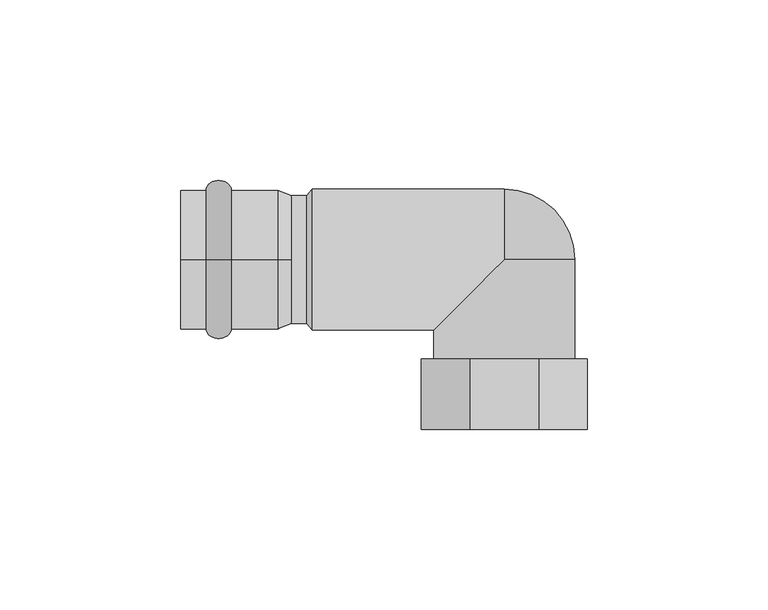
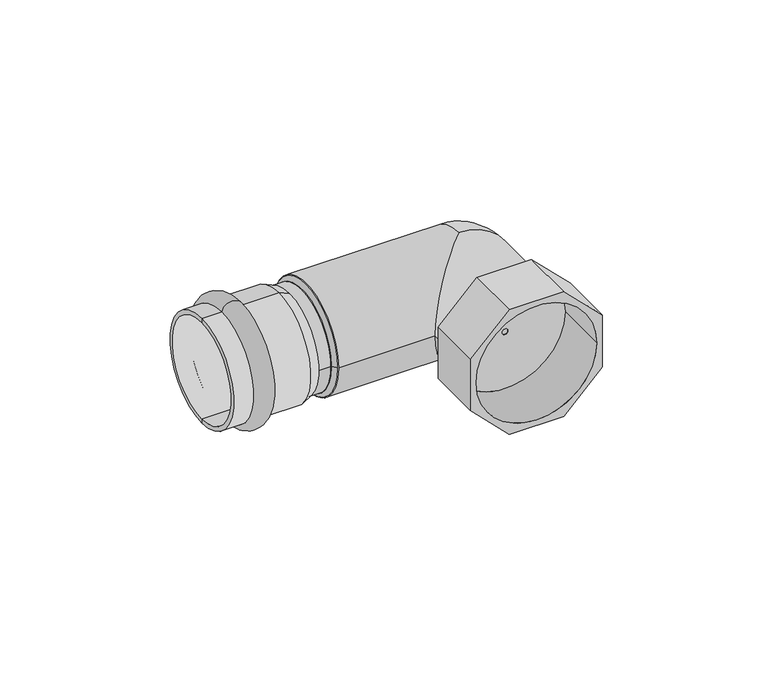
"""IFC4 building model written with IfcOpenShell, lengths in millimetres: pipe fitting geometry."""

from ifc_helpers import new_model, si_unit, point, frame, origin, origin_2d, place, context, project, spatial, polyline, circle_curve, ellipse_curve, trimmed, segment, composite_curve, outline, extrude, source, transform, mapped, element, save
from ifc_brep_helpers import plane_surface, cylinder_surface, revolved_surface, advanced_brep


def pipe_fitting_cd871b9a(model_context):
    return source(origin(), model_context, "Body", "SolidModel", [
        advanced_brep(
        [(-20.0, 0.0, 19.25), (-20.0, 0.0, -19.25), (-13.0, 0.0, -19.25), (-13.0, 0.0, 19.25)],
        [
            (0, 1, circle_curve(frame((-20.0, 0.0, 0.0), z_axis=(-1.0, 0.0, 0.0), x_axis=(0.0, 0.0, -1.0)), 19.25)),
            (1, 2),
            (2, 3, circle_curve(frame((-13.0, 0.0, 0.0), z_axis=(1.0, 0.0, 0.0), x_axis=(0.0, 0.0, -1.0)), 19.25)),
            (3, 0),
            (1, 0, circle_curve(frame((-20.0, 0.0, 0.0), z_axis=(-1.0, 0.0, 0.0), x_axis=(0.0, 0.0, -1.0)), 19.25)),
            (3, 2, circle_curve(frame((-13.0, 0.0, 0.0), z_axis=(1.0, 0.0, 0.0), x_axis=(0.0, 0.0, -1.0)), 19.25)),
            (2, 1, ellipse_curve(frame((-16.5, 0.0, -19.25), z_axis=(0.0, 1.0, 0.0), x_axis=(-1.0, 0.0, 0.0)), 3.5, 2.75)),
            (0, 3, ellipse_curve(frame((-16.5, 0.0, 19.25), z_axis=(0.0, 1.0, 0.0), x_axis=(-1.0, 0.0, 0.0)), 3.5, 2.75)),
        ],
        [
            revolved_surface(polyline([(-13.0, 0.0, -19.25), (-20.0, 0.0, -19.25)]), (3.0, 0.0, 0.0), (1.0, 0.0, 0.0)),
            revolved_surface(trimmed(ellipse_curve(frame((-16.5, 0.0, -19.25), z_axis=(0.0, -1.0, 0.0), x_axis=(-1.0, 0.0, 0.0)), 3.5, 2.75), [point((-20.0, 0.0, -19.25))], [point((-13.0, 0.0, -19.25))], True, "CARTESIAN"), (3.0, 0.0, 0.0), (1.0, 0.0, 0.0)),
        ],
        [
            (0, [[1, 2, 3, 4]]),
            (0, [[5, -4, 6, -2]]),
            (1, [[-3, 7, -1, 8]]),
            (1, [[-6, -8, -5, -7]]),
        ],
    ),
        advanced_brep(
        [(3.5337785, 0.0, 17.75), (3.5337785, 0.0, -17.75), (0.0, 0.0, -19.25), (0.0, 0.0, 19.25), (-27.0, 0.0, 17.75), (-27.0, 0.0, -17.75), (-27.0, 0.0, 19.25), (-27.0, 0.0, -19.25)],
        [
            (0, 1, circle_curve(frame((3.5337785, 0.0, 0.0), z_axis=(-1.0, 0.0, 0.0), x_axis=(0.0, 0.0, -1.0)), 17.75)),
            (1, 2),
            (2, 3, circle_curve(frame((0.0, 0.0, 0.0), z_axis=(1.0, 0.0, 0.0), x_axis=(0.0, 0.0, -1.0)), 19.25)),
            (3, 0),
            (1, 0, circle_curve(frame((3.5337785, 0.0, 0.0), z_axis=(-1.0, 0.0, 0.0), x_axis=(0.0, 0.0, -1.0)), 17.75)),
            (3, 2, circle_curve(frame((0.0, 0.0, 0.0), z_axis=(1.0, 0.0, 0.0), x_axis=(0.0, 0.0, -1.0)), 19.25)),
            (4, 5, circle_curve(frame((-27.0, 0.0, 0.0), z_axis=(-1.0, 0.0, 0.0), x_axis=(0.0, 0.0, -1.0)), 17.75)),
            (5, 1),
            (0, 4),
            (5, 4, circle_curve(frame((-27.0, 0.0, 0.0), z_axis=(-1.0, 0.0, 0.0), x_axis=(0.0, 0.0, -1.0)), 17.75)),
            (6, 7, circle_curve(frame((-27.0, 0.0, 0.0), z_axis=(-1.0, 0.0, 0.0), x_axis=(0.0, 0.0, -1.0)), 19.25)),
            (7, 5),
            (4, 6),
            (7, 6, circle_curve(frame((-27.0, 0.0, 0.0), z_axis=(-1.0, 0.0, 0.0), x_axis=(0.0, 0.0, -1.0)), 19.25)),
            (2, 7),
            (6, 3),
        ],
        [
            revolved_surface(polyline([(0.0, 0.0, -19.25), (3.5337785, 0.0, -17.75)]), (3.0, 0.0, 0.0), (1.0, 0.0, 0.0)),
            revolved_surface(polyline([(3.5337785, 0.0, -17.75), (-27.0, 0.0, -17.75)]), (3.0, 0.0, 0.0), (1.0, 0.0, 0.0)),
            plane_surface(frame((-27.0, 0.0, 0.0), z_axis=(-1.0, 0.0, 0.0), x_axis=(0.0, 0.0, -1.0))),
            cylinder_surface(frame((3.0, 0.0, 0.0), z_axis=(1.0, 0.0, 0.0), x_axis=(0.0, 0.0, -1.0)), 19.25),
        ],
        [
            (0, [[1, 2, 3, 4]]),
            (0, [[5, -4, 6, -2]]),
            (1, [[7, 8, -1, 9]]),
            (1, [[10, -9, -5, -8]]),
            (2, [[11, 12, -7, 13]]),
            (2, [[14, -13, -10, -12]]),
            (3, [[-3, 15, -11, 16]]),
            (3, [[-6, -16, -14, -15]]),
        ],
    ),
        advanced_brep(
        [(9.4, -19.5, 0.0), (9.4, 19.5, 0.0), (62.5, 19.5, 0.0), (62.5, 0.0, -19.5), (43.0, -19.5, 0.0), (62.5, 0.0, 19.5), (82.0, -27.5, 0.0), (43.0, -27.5, 0.0), (82.0, 0.0, 0.0)],
        [
            (0, 1, circle_curve(frame((9.4, 0.0, 0.0), z_axis=(-1.0, 0.0, 0.0), x_axis=(0.0, 1.0, 0.0)), 19.5)),
            (1, 0, circle_curve(frame((9.4, 0.0, 0.0), z_axis=(-1.0, 0.0, 0.0), x_axis=(0.0, 1.0, 0.0)), 19.5)),
            (1, 2),
            (2, 3, circle_curve(frame((62.5, 0.0, 0.0), z_axis=(-1.0, 0.0, 0.0), x_axis=(0.0, 1.0, 0.0)), 19.5)),
            (3, 4, ellipse_curve(frame((62.5, 0.0, 0.0), z_axis=(-0.7071067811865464, 0.7071067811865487, 0.0), x_axis=(0.7071067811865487, 0.7071067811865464, 0.0)), 27.5771645, 19.5)),
            (4, 0),
            (4, 5, ellipse_curve(frame((62.5, 0.0, 0.0), z_axis=(-0.7071067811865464, 0.7071067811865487, 0.0), x_axis=(0.7071067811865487, 0.7071067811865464, 0.0)), 27.5771645, 19.5)),
            (5, 2, circle_curve(frame((62.5, 0.0, 0.0), z_axis=(-1.0, 0.0, 0.0), x_axis=(0.0, 1.0, 0.0)), 19.5)),
            (6, 7, circle_curve(frame((62.5, -27.5, 0.0), z_axis=(0.0, -1.0, 0.0), x_axis=(0.0, 0.0, 1.0)), 19.5)),
            (7, 6, circle_curve(frame((62.5, -27.5, 0.0), z_axis=(0.0, -1.0, 0.0), x_axis=(0.0, 0.0, -1.0)), 19.5)),
            (7, 4),
            (3, 8, circle_curve(frame((62.5, 0.0, 0.0), z_axis=(0.0, -1.0, 0.0), x_axis=(0.0, 0.0, -1.0)), 19.5)),
            (8, 6),
            (8, 5, circle_curve(frame((62.5, 0.0, 0.0), z_axis=(0.0, -1.0, 0.0), x_axis=(0.0, 0.0, 1.0)), 19.5)),
        ],
        [
            plane_surface(frame((9.4, 19.5, 0.0), z_axis=(-1.0, 0.0, 0.0), x_axis=(0.0, 0.0, -1.0))),
            cylinder_surface(frame((9.4, 0.0, 0.0), z_axis=(1.0, 0.0, 0.0), x_axis=(0.0, 1.0, 0.0)), 19.5),
            plane_surface(frame((62.5, -27.5, 0.0), z_axis=(0.0, -1.0, 0.0), x_axis=(0.0, 0.0, -1.0))),
            cylinder_surface(frame((62.5, 0.0, 0.0), z_axis=(0.0, -1.0, 0.0), x_axis=(0.0, 0.0, -1.0)), 19.5),
            cylinder_surface(frame((62.5, 0.0, 0.0), z_axis=(0.0, -1.0, 0.0), x_axis=(0.0, 0.0, 1.0)), 19.5),
            revolved_surface(trimmed(ellipse_curve(frame((62.5, 0.0, 0.0), z_axis=(0.0, -1.0, 0.0), x_axis=(1.0, 0.0, 0.0)), 19.5, 19.5), [point((62.5, 0.0, -19.5))], [point((62.5, 0.0, 19.5))], True, "CARTESIAN"), (62.5, 0.0, 0.0), (0.0, 0.0, 1.0)),
        ],
        [
            (0, [[1, 2]]),
            (1, [[-2, 3, 4, 5, 6]]),
            (1, [[-1, -6, 7, 8, -3]]),
            (2, [[9, 10]]),
            (3, [[-10, 11, -5, 12, 13]]),
            (4, [[-9, -13, 14, -7, -11]]),
            (5, [[-4, -8, -14, -12]]),
        ],
    ),
        advanced_brep(
        [(85.5, -27.5, -9.5269119), (85.5, -47.0, -9.5269119), (72.0269119, -47.0, -23.0), (72.0269119, -27.5, -23.0), (63.5, -27.5, -0.4142136), (62.9142136, -27.5, -1.0), (62.9142136, -28.0, -1.0), (63.5, -28.0, -0.4142136), (52.9730881, -47.0, -23.0), (52.9730881, -27.5, -23.0), (62.0857864, -27.5, -1.0), (62.0857864, -28.0, -1.0), (39.5, -27.5, 9.5269119), (39.5, -47.0, 9.5269119), (52.9730881, -47.0, 23.0), (52.9730881, -27.5, 23.0), (61.5, -27.5, 0.4142136), (62.0857864, -27.5, 1.0), (62.0857864, -28.0, 1.0), (61.5, -28.0, 0.4142136), (72.0269119, -47.0, 23.0), (72.0269119, -27.5, 23.0), (62.9142136, -27.5, 1.0), (62.9142136, -28.0, 1.0), (39.5, -47.0, -9.5269119), (39.5, -27.5, -9.5269119), (61.5, -27.5, -0.4142136), (61.5, -28.0, -0.4142136), (85.5, -47.0, 9.5269119), (85.5, -27.5, 9.5269119), (63.5, -27.5, 0.4142136), (63.5, -28.0, 0.4142136), (83.5, -28.0, 0.0), (41.5, -28.0, 0.0), (41.5, -47.0, 0.0), (83.5, -47.0, 0.0)],
        [
            (0, 1),
            (1, 2),
            (2, 3),
            (3, 0),
            (4, 5),
            (5, 6),
            (6, 7),
            (7, 4),
            (2, 8),
            (8, 9),
            (9, 3),
            (5, 10),
            (10, 11),
            (11, 6),
            (12, 13),
            (13, 14),
            (14, 15),
            (15, 12),
            (16, 17),
            (17, 18),
            (18, 19),
            (19, 16),
            (14, 20),
            (20, 21),
            (21, 15),
            (17, 22),
            (22, 23),
            (23, 18),
            (8, 24),
            (24, 25),
            (25, 9),
            (10, 26),
            (26, 27),
            (27, 11),
            (20, 28),
            (28, 29),
            (29, 21),
            (22, 30),
            (30, 31),
            (31, 23),
            (32, 33, circle_curve(frame((62.5, -28.0, 0.0), z_axis=(0.0, -1.0, 0.0), x_axis=(-1.0, 0.0, 0.0)), 21.0)),
            (33, 32, circle_curve(frame((62.5, -28.0, 0.0), z_axis=(0.0, -1.0, 0.0), x_axis=(-1.0, 0.0, 0.0)), 21.0)),
            (27, 19),
            (31, 7),
            (33, 34),
            (34, 35, circle_curve(frame((62.5, -47.0, 0.0), z_axis=(0.0, -1.0, 0.0), x_axis=(-1.0, 0.0, 0.0)), 21.0)),
            (35, 32),
            (35, 34, circle_curve(frame((62.5, -47.0, 0.0), z_axis=(0.0, -1.0, 0.0), x_axis=(-1.0, 0.0, 0.0)), 21.0)),
            (12, 25),
            (24, 13),
            (26, 16),
            (1, 28),
            (0, 29),
            (4, 30),
        ],
        [
            plane_surface(frame((85.5, -47.0, -9.5269119), z_axis=(0.7071067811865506, 0.0, -0.7071067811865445), x_axis=(-0.7071067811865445, 0.0, -0.7071067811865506))),
            plane_surface(frame((63.5, -27.5, -0.4142136), z_axis=(-0.7071067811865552, 0.0, 0.7071067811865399), x_axis=(-0.7071067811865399, 0.0, -0.7071067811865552))),
            plane_surface(frame((72.0269119, -47.0, -23.0), z_axis=(0.0, 0.0, -1.0), x_axis=(-1.0, 0.0, 0.0))),
            plane_surface(frame((62.9142136, -27.5, -1.0), z_axis=(0.0, 0.0, 1.0), x_axis=(-1.0, 0.0, 0.0))),
            plane_surface(frame((39.5, -47.0, 9.5269119), z_axis=(-0.7071067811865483, 0.0, 0.7071067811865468), x_axis=(0.7071067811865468, 0.0, 0.7071067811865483))),
            plane_surface(frame((61.5, -27.5, 0.4142136), z_axis=(0.7071067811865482, 0.0, -0.7071067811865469), x_axis=(0.7071067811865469, 0.0, 0.7071067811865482))),
            plane_surface(frame((52.9730881, -47.0, 23.0), z_axis=(0.0, 0.0, 1.0), x_axis=(1.0, 0.0, 0.0))),
            plane_surface(frame((62.0857864, -27.5, 1.0), z_axis=(0.0, 0.0, -1.0), x_axis=(1.0, 0.0, 0.0))),
            plane_surface(frame((52.9730881, -47.0, -23.0), z_axis=(-0.7071067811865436, 0.0, -0.7071067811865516), x_axis=(-0.7071067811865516, 0.0, 0.7071067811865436))),
            plane_surface(frame((62.0857864, -27.5, -1.0), z_axis=(0.7071067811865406, 0.0, 0.7071067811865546), x_axis=(-0.7071067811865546, 0.0, 0.7071067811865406))),
            plane_surface(frame((72.0269119, -47.0, 23.0), z_axis=(0.7071067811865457, 0.0, 0.7071067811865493), x_axis=(0.7071067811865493, 0.0, -0.7071067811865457))),
            plane_surface(frame((62.9142136, -27.5, 1.0), z_axis=(-0.707106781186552, 0.0, -0.7071067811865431), x_axis=(0.7071067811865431, 0.0, -0.707106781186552))),
            plane_surface(frame((41.5, -28.0, 0.0), z_axis=(0.0, -1.0, 0.0), x_axis=(0.0, 0.0, 1.0))),
            revolved_surface(polyline([(41.5, -28.0, 0.0), (41.5, -47.0, 0.0)]), (62.5, -47.0, 0.0), (0.0, 1.0, 0.0)),
            plane_surface(frame((39.5, -47.0, -9.5269119), z_axis=(-1.0, 0.0, 0.0), x_axis=(0.0, 0.0, 1.0))),
            plane_surface(frame((61.5, -27.5, -0.4142136), z_axis=(1.0, 0.0, 0.0), x_axis=(0.0, 0.0, 1.0))),
            plane_surface(frame((63.5, -47.0, 0.4142136), z_axis=(0.0, -1.0, 0.0), x_axis=(0.0, 0.0, -1.0))),
            plane_surface(frame((85.5, -47.0, 9.5269119), z_axis=(1.0, 0.0, 0.0), x_axis=(0.0, 0.0, -1.0))),
            plane_surface(frame((85.5, -27.5, 9.5269119), z_axis=(0.0, 1.0, 0.0), x_axis=(0.0, 0.0, -1.0))),
            plane_surface(frame((63.5, -27.5, 0.4142136), z_axis=(-1.0, 0.0, 0.0), x_axis=(0.0, 0.0, -1.0))),
        ],
        [
            (0, [[1, 2, 3, 4]]),
            (1, [[5, 6, 7, 8]]),
            (2, [[-3, 9, 10, 11]]),
            (3, [[12, 13, 14, -6]]),
            (4, [[15, 16, 17, 18]]),
            (5, [[19, 20, 21, 22]]),
            (6, [[-17, 23, 24, 25]]),
            (7, [[26, 27, 28, -20]]),
            (8, [[-10, 29, 30, 31]]),
            (9, [[32, 33, 34, -13]]),
            (10, [[-24, 35, 36, 37]]),
            (11, [[38, 39, 40, -27]]),
            (12, [[41, 42], [-7, -14, -34, 43, -21, -28, -40, 44]]),
            (13, [[-42, 45, 46, 47]]),
            (13, [[-41, -47, 48, -45]]),
            (14, [[-15, 49, -30, 50]]),
            (15, [[51, -22, -43, -33]]),
            (16, [[-2, 52, -35, -23, -16, -50, -29, -9], [-46, -48]]),
            (17, [[-1, 53, -36, -52]]),
            (18, [[-4, -11, -31, -49, -18, -25, -37, -53], [-5, 54, -38, -26, -19, -51, -32, -12]]),
            (19, [[-54, -8, -44, -39]]),
        ],
    ),
        advanced_brep(
        [(9.4, -19.5, 0.0), (9.4, 19.5, 0.0), (7.9, -17.75, 0.0), (7.9, 17.75, 0.0)],
        [
            (0, 1, circle_curve(frame((9.4, 0.0, 0.0), z_axis=(1.0, 0.0, 0.0), x_axis=(0.0, -1.0, 0.0)), 19.5)),
            (1, 0, circle_curve(frame((9.4, 0.0, 0.0), z_axis=(1.0, 0.0, 0.0), x_axis=(0.0, 1.0, 0.0)), 19.5)),
            (2, 3, circle_curve(frame((7.9, 0.0, 0.0), z_axis=(-1.0, 0.0, 0.0), x_axis=(0.0, 1.0, 0.0)), 17.75)),
            (3, 2, circle_curve(frame((7.9, 0.0, 0.0), z_axis=(-1.0, 0.0, 0.0), x_axis=(0.0, -1.0, 0.0)), 17.75)),
            (3, 1),
            (0, 2),
        ],
        [
            plane_surface(frame((9.4, 0.0, 0.0), z_axis=(1.0, 0.0, 0.0), x_axis=(0.0, 0.0, -1.0))),
            plane_surface(frame((7.9, 0.0, 0.0), z_axis=(-1.0, 0.0, 0.0), x_axis=(0.0, 0.0, -1.0))),
            revolved_surface(polyline([(7.900000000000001, 17.749999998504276, 0.0), (9.400000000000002, 19.5, 0.0)]), (-7.3142857, 0.0, 0.0), (1.0, 0.0, 0.0)),
            revolved_surface(polyline([(7.900000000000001, -17.749999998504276, 0.0), (9.400000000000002, -19.5, 0.0)]), (-7.3142857, 0.0, 0.0), (1.0, 0.0, 0.0)),
        ],
        [
            (0, [[1, 2]]),
            (1, [[3, 4]]),
            (2, [[-4, 5, -1, 6]]),
            (3, [[-3, -6, -2, -5]]),
        ],
    ),
        extrude(outline(composite_curve([segment(trimmed(circle_curve(origin_2d(), 17.75), [point((-17.75, 0.0))], [point((17.75, 0.0))], False, "CARTESIAN"), True, "CONTINUOUS"), segment(trimmed(circle_curve(origin_2d(), 17.75), [point((17.75, 0.0))], [point((-17.75, 0.0))], False, "CARTESIAN"), True, "CONTINUOUS")], self_intersect=False)), frame((0.0, 0.0, 0.0), z_axis=(1.0, 0.0, 0.0), x_axis=(0.0, 1.0, 0.0)), (0.0, 0.0, 1.0), 7.9),
    ])


if __name__ == "__main__":
    model = new_model("IFC4")
    model_context = context("Model", 3, world=origin())
    ifc_project = project(units=[si_unit("LENGTHUNIT", "METRE", prefix="MILLI")], contexts=[model_context])
    site = spatial("IfcSite", under=ifc_project)
    building = spatial("IfcBuilding", under=site)
    placement = place(None, origin())
    pipe_fitting_shape = pipe_fitting_cd871b9a(model_context)
    element("IfcPipeFitting", 1, ObjectType="РЕХАУ_Пресс Угольник ВР : 35 x Rp 1 1/4\"", at=placement, inside=building, context=model_context, shape_type="MappedRepresentation", body=[
        mapped(pipe_fitting_shape, transform((0.0, 0.0, 0.0), x_axis=(1.0, 0.0, 0.0), y_axis=(0.0, 1.0, 0.0), z_axis=(0.0, 0.0, 1.0))),
    ])
    save(model, "model.ifc")
